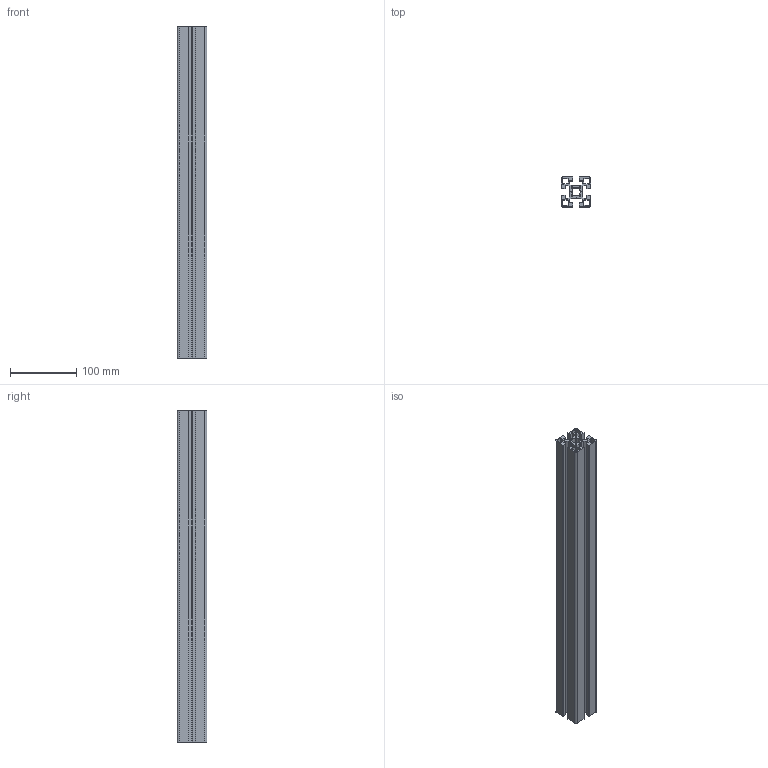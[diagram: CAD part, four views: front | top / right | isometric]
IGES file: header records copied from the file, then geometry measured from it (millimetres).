
Start section: SolidWorks IGES file using analytic representation for surfaces
Global section: file name: C:\Documents and Settings\Administrator\デスクトップ\指定保存後4回目\SolidWorks\SF\SF40・45\Frame\SFF-454.IGS,41HSolidWorks; native system: 2006 by SolidWorks Corporation; preprocessor: SolidWorks 2006 by SolidWorks Corporation; author: Administrator; date: 061218.104422; units: millimetre
Bounding box: 45 x 45 x 500 mm (x, y, z)
Volume: 391525 mm3; surface area: 280274.5 mm2
Topology: 1 solids, 1 shells, 137 faces, 405 edges, 270 vertices
Faces by surface type: plane 82, revolution 55
